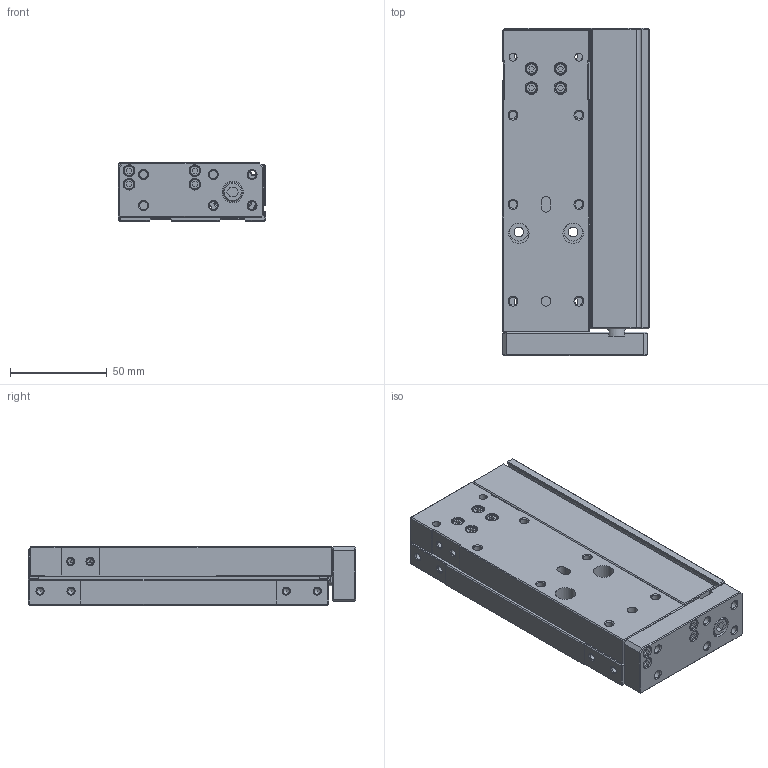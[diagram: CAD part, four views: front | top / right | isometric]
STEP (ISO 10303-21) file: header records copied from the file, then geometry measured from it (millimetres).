
FILE_DESCRIPTION((''),'2;1');
FILE_NAME('I:\3D電子目錄\氣缸\FMR(L)\FMR(L)\FMR20x100.stp','2007-10-15T16:05:41',('Administrator'),(''),'Autodesk Inventor 11','Autodesk Inventor 11','');
FILE_SCHEMA(('AUTOMOTIVE_DESIGN { 1 0 10303 214 1 1 1 1 }'));
Length unit declared in the file: millimetre
Products named in the file (1): FMR20x100
Bounding box: 76 x 168.8 x 30 mm (x, y, z)
Volume: 286006.1 mm3; surface area: 93744.6 mm2
Topology: 1 solids, 10 shells, 574 faces, 1341 edges, 846 vertices
Faces by surface type: plane 347, bspline 113, cylinder 68, cone 46
Full cylindrical faces by diameter (mm): 1 x2, 2 x2, 4.2 x1, 5 x3, 5.5 x8, 6 x1, 6.5 x1, 8 x2, 10 x4, 10.5 x2, 12 x1, 13 x1, 15 x1, 17.5 x2, 20 x3, 22 x4, 23.2 x2
Entity records: 16442 total; most frequent: CARTESIAN_POINT 4391, DIRECTION 2373, ORIENTED_EDGE 2240, EDGE_CURVE 1120, EDGE_LOOP 873, AXIS2_PLACEMENT_3D 813, VERTEX_POINT 791, VECTOR 747
